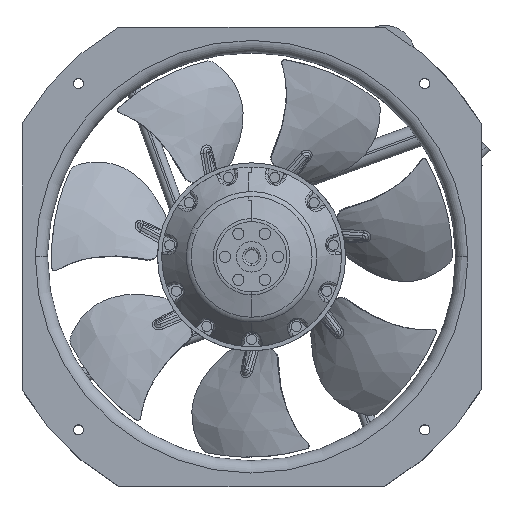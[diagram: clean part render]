
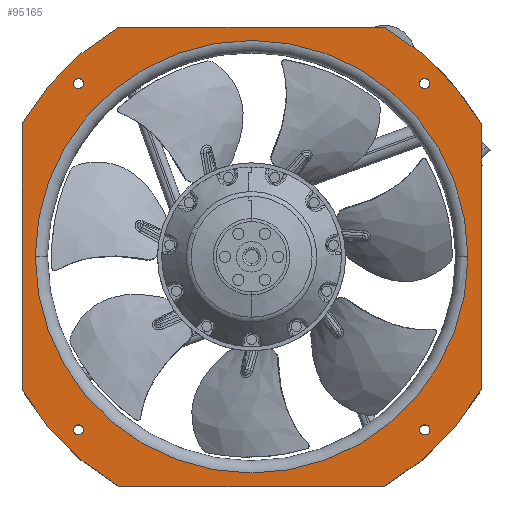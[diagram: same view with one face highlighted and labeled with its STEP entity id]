
A CAD part, top view. The second image highlights one B-rep face of the part: STEP entity #95165.
In plain terms, the highlighted planar face has unit normal (0, 0, 1) as drawn and (0, 0, -1) by its records, which use the part's own axes.
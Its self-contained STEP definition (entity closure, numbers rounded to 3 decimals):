
#86298=DIRECTION('',(-1.,0.,0.));
#86299=VECTOR('',#86298,130.288);
#86300=CARTESIAN_POINT('',(65.144,112.5,-80.));
#86301=LINE('',#86300,#86299);
#86302=CARTESIAN_POINT('',(0.,0.,-80.));
#86303=DIRECTION('',(0.,0.,1.));
#86304=DIRECTION('',(-0.501,0.865,0.));
#86305=AXIS2_PLACEMENT_3D('',#86302,#86303,#86304);
#86307=DIRECTION('',(0.,-1.,0.));
#86308=VECTOR('',#86307,130.288);
#86309=CARTESIAN_POINT('',(-112.5,65.144,-80.));
#86310=LINE('',#86309,#86308);
#86311=CARTESIAN_POINT('',(0.,0.,-80.));
#86312=DIRECTION('',(0.,0.,1.));
#86313=DIRECTION('',(-0.865,-0.501,
0.));
#86314=AXIS2_PLACEMENT_3D('',#86311,#86312,#86313);
#86316=DIRECTION('',(1.,0.,0.));
#86317=VECTOR('',#86316,130.288);
#86318=CARTESIAN_POINT('',(-65.144,-112.5,-80.));
#86319=LINE('',#86318,#86317);
#86320=CARTESIAN_POINT('',(0.,0.,-80.));
#86321=DIRECTION('',(0.,0.,1.));
#86322=DIRECTION('',(0.501,-0.865,0.));
#86323=AXIS2_PLACEMENT_3D('',#86320,#86321,#86322);
#86325=DIRECTION('',(0.,1.,0.));
#86326=VECTOR('',#86325,130.288);
#86327=CARTESIAN_POINT('',(112.5,-65.144,-80.));
#86328=LINE('',#86327,#86326);
#86329=CARTESIAN_POINT('',(0.,0.,-80.));
#86330=DIRECTION('',(0.,0.,1.));
#86331=DIRECTION('',(0.865,0.501,0.));
#86332=AXIS2_PLACEMENT_3D('',#86329,#86330,#86331);
#86334=CARTESIAN_POINT('',(0.,0.,-80.));
#86335=DIRECTION('',(0.,0.,-1.));
#86336=DIRECTION('',(1.,0.,0.));
#86337=AXIS2_PLACEMENT_3D('',#86334,#86335,#86336);
#86339=CARTESIAN_POINT('',(0.,0.,-80.));
#86340=DIRECTION('',(0.,0.,-1.));
#86341=DIRECTION('',(-1.,0.,0.));
#86342=AXIS2_PLACEMENT_3D('',#86339,#86340,#86341);
#86344=CARTESIAN_POINT('',(84.853,84.853,-80.));
#86345=DIRECTION('',(0.,0.,-1.));
#86346=DIRECTION('',(-1.,0.,0.));
#86347=AXIS2_PLACEMENT_3D('',#86344,#86345,#86346);
#86349=CARTESIAN_POINT('',(84.853,84.853,-80.));
#86350=DIRECTION('',(0.,0.,-1.));
#86351=DIRECTION('',(1.,0.,0.));
#86352=AXIS2_PLACEMENT_3D('',#86349,#86350,#86351);
#86354=CARTESIAN_POINT('',(-84.853,84.853,-80.));
#86355=DIRECTION('',(0.,0.,-1.));
#86356=DIRECTION('',(0.,-1.,0.));
#86357=AXIS2_PLACEMENT_3D('',#86354,#86355,#86356);
#86359=CARTESIAN_POINT('',(-84.853,84.853,-80.));
#86360=DIRECTION('',(0.,0.,-1.));
#86361=DIRECTION('',(0.,1.,0.));
#86362=AXIS2_PLACEMENT_3D('',#86359,#86360,#86361);
#86364=CARTESIAN_POINT('',(-84.853,-84.853,-80.));
#86365=DIRECTION('',(0.,0.,-1.));
#86366=DIRECTION('',(1.,0.,0.));
#86367=AXIS2_PLACEMENT_3D('',#86364,#86365,#86366);
#86369=CARTESIAN_POINT('',(-84.853,-84.853,-80.));
#86370=DIRECTION('',(0.,0.,-1.));
#86371=DIRECTION('',(-1.,0.,0.));
#86372=AXIS2_PLACEMENT_3D('',#86369,#86370,#86371);
#86374=CARTESIAN_POINT('',(84.853,-84.853,-80.));
#86375=DIRECTION('',(0.,0.,-1.));
#86376=DIRECTION('',(0.,1.,0.));
#86377=AXIS2_PLACEMENT_3D('',#86374,#86375,#86376);
#86379=CARTESIAN_POINT('',(84.853,-84.853,-80.));
#86380=DIRECTION('',(0.,0.,-1.));
#86381=DIRECTION('',(0.,-1.,0.));
#86382=AXIS2_PLACEMENT_3D('',#86379,#86380,#86381);
#87914=CARTESIAN_POINT('',(0.,0.,-80.));
#87915=DIRECTION('',(0.,0.,1.));
#87916=DIRECTION('',(-1.,0.,0.));
#87917=AXIS2_PLACEMENT_3D('',#87914,#87915,#87916);
#87934=CARTESIAN_POINT('',(0.,0.,-80.));
#87935=DIRECTION('',(0.,0.,1.));
#87936=DIRECTION('',(1.,0.,0.));
#87937=AXIS2_PLACEMENT_3D('',#87934,#87935,#87936);
#93458=CARTESIAN_POINT('',(65.144,112.5,-80.));
#93459=CARTESIAN_POINT('',(-65.144,112.5,-80.));
#93460=VERTEX_POINT('',#93458);
#93461=VERTEX_POINT('',#93459);
#93462=CARTESIAN_POINT('',(-112.5,65.144,-80.));
#93463=VERTEX_POINT('',#93462);
#93464=CARTESIAN_POINT('',(-112.5,-65.144,-80.));
#93465=VERTEX_POINT('',#93464);
#93466=CARTESIAN_POINT('',(-65.144,-112.5,-80.));
#93467=VERTEX_POINT('',#93466);
#93468=CARTESIAN_POINT('',(65.144,-112.5,-80.));
#93469=VERTEX_POINT('',#93468);
#93470=CARTESIAN_POINT('',(112.5,-65.144,-80.));
#93471=VERTEX_POINT('',#93470);
#93472=CARTESIAN_POINT('',(112.5,65.144,-80.));
#93473=VERTEX_POINT('',#93472);
#93474=CARTESIAN_POINT('',(106.,0.,-80.));
#93475=CARTESIAN_POINT('',(-105.998,-0.59,-80.));
#93476=VERTEX_POINT('',#93474);
#93477=VERTEX_POINT('',#93475);
#93478=CARTESIAN_POINT('',(-106.,0.,-80.));
#93479=VERTEX_POINT('',#93478);
#93480=CARTESIAN_POINT('',(105.998,0.59,-80.));
#93481=VERTEX_POINT('',#93480);
#93482=CARTESIAN_POINT('',(82.353,84.853,-80.));
#93483=CARTESIAN_POINT('',(87.353,84.853,-80.));
#93484=VERTEX_POINT('',#93482);
#93485=VERTEX_POINT('',#93483);
#93486=CARTESIAN_POINT('',(-84.853,82.353,-80.));
#93487=CARTESIAN_POINT('',(-84.853,87.353,-80.));
#93488=VERTEX_POINT('',#93486);
#93489=VERTEX_POINT('',#93487);
#93490=CARTESIAN_POINT('',(-82.353,-84.853,-80.));
#93491=CARTESIAN_POINT('',(-87.353,-84.853,-80.));
#93492=VERTEX_POINT('',#93490);
#93493=VERTEX_POINT('',#93491);
#93494=CARTESIAN_POINT('',(84.853,-82.353,-80.));
#93495=CARTESIAN_POINT('',(84.853,-87.353,-80.));
#93496=VERTEX_POINT('',#93494);
#93497=VERTEX_POINT('',#93495);
#95108=CARTESIAN_POINT('',(0.,0.,-80.));
#95109=DIRECTION('',(0.,0.,1.));
#95110=DIRECTION('',(-1.,0.,0.));
#95111=AXIS2_PLACEMENT_3D('',#95108,#95109,#95110);
#95112=PLANE('',#95111);
#95114=ORIENTED_EDGE('',*,*,#95113,.T.);
#95116=ORIENTED_EDGE('',*,*,#95115,.T.);
#95118=ORIENTED_EDGE('',*,*,#95117,.T.);
#95120=ORIENTED_EDGE('',*,*,#95119,.T.);
#95122=ORIENTED_EDGE('',*,*,#95121,.T.);
#95124=ORIENTED_EDGE('',*,*,#95123,.T.);
#95126=ORIENTED_EDGE('',*,*,#95125,.T.);
#95128=ORIENTED_EDGE('',*,*,#95127,.T.);
#95129=EDGE_LOOP('',(#95114,#95116,#95118,#95120,#95122,#95124,#95126,#95128));
#95130=FACE_OUTER_BOUND('',#95129,.F.);
#95132=ORIENTED_EDGE('',*,*,#95131,.T.);
#95134=ORIENTED_EDGE('',*,*,#95133,.F.);
#95136=ORIENTED_EDGE('',*,*,#95135,.T.);
#95138=ORIENTED_EDGE('',*,*,#95137,.F.);
#95139=EDGE_LOOP('',(#95132,#95134,#95136,#95138));
#95140=FACE_BOUND('',#95139,.F.);
#95142=ORIENTED_EDGE('',*,*,#95141,.T.);
#95144=ORIENTED_EDGE('',*,*,#95143,.T.);
#95145=EDGE_LOOP('',(#95142,#95144));
#95146=FACE_BOUND('',#95145,.F.);
#95148=ORIENTED_EDGE('',*,*,#95147,.T.);
#95150=ORIENTED_EDGE('',*,*,#95149,.T.);
#95151=EDGE_LOOP('',(#95148,#95150));
#95152=FACE_BOUND('',#95151,.F.);
#95154=ORIENTED_EDGE('',*,*,#95153,.T.);
#95156=ORIENTED_EDGE('',*,*,#95155,.T.);
#95157=EDGE_LOOP('',(#95154,#95156));
#95158=FACE_BOUND('',#95157,.F.);
#95160=ORIENTED_EDGE('',*,*,#95159,.T.);
#95162=ORIENTED_EDGE('',*,*,#95161,.T.);
#95163=EDGE_LOOP('',(#95160,#95162));
#95164=FACE_BOUND('',#95163,.F.);
#86306=CIRCLE('',#86305,130.);
#86315=CIRCLE('',#86314,130.);
#86324=CIRCLE('',#86323,130.);
#86333=CIRCLE('',#86332,130.);
#86338=CIRCLE('',#86337,106.);
#86343=CIRCLE('',#86342,106.);
#86348=CIRCLE('',#86347,2.5);
#86353=CIRCLE('',#86352,2.5);
#86358=CIRCLE('',#86357,2.5);
#86363=CIRCLE('',#86362,2.5);
#86368=CIRCLE('',#86367,2.5);
#86373=CIRCLE('',#86372,2.5);
#86378=CIRCLE('',#86377,2.5);
#86383=CIRCLE('',#86382,2.5);
#87918=CIRCLE('',#87917,106.);
#87938=CIRCLE('',#87937,106.);
#95113=EDGE_CURVE('',#93460,#93461,#86301,.T.);
#95115=EDGE_CURVE('',#93461,#93463,#86306,.T.);
#95117=EDGE_CURVE('',#93463,#93465,#86310,.T.);
#95119=EDGE_CURVE('',#93465,#93467,#86315,.T.);
#95121=EDGE_CURVE('',#93467,#93469,#86319,.T.);
#95123=EDGE_CURVE('',#93469,#93471,#86324,.T.);
#95125=EDGE_CURVE('',#93471,#93473,#86328,.T.);
#95127=EDGE_CURVE('',#93473,#93460,#86333,.T.);
#95131=EDGE_CURVE('',#93476,#93477,#86338,.T.);
#95133=EDGE_CURVE('',#93479,#93477,#87918,.T.);
#95135=EDGE_CURVE('',#93479,#93481,#86343,.T.);
#95137=EDGE_CURVE('',#93476,#93481,#87938,.T.);
#95141=EDGE_CURVE('',#93484,#93485,#86348,.T.);
#95143=EDGE_CURVE('',#93485,#93484,#86353,.T.);
#95147=EDGE_CURVE('',#93488,#93489,#86358,.T.);
#95149=EDGE_CURVE('',#93489,#93488,#86363,.T.);
#95153=EDGE_CURVE('',#93492,#93493,#86368,.T.);
#95155=EDGE_CURVE('',#93493,#93492,#86373,.T.);
#95159=EDGE_CURVE('',#93496,#93497,#86378,.T.);
#95161=EDGE_CURVE('',#93497,#93496,#86383,.T.);
#95165=ADVANCED_FACE('',(#95130,#95140,#95146,#95152,#95158,#95164),#95112,.F.);
